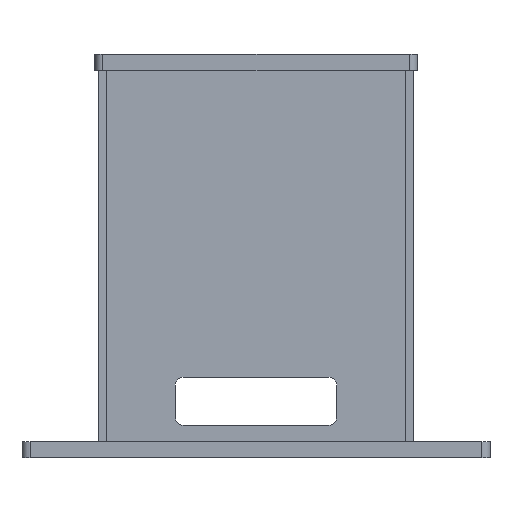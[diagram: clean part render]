
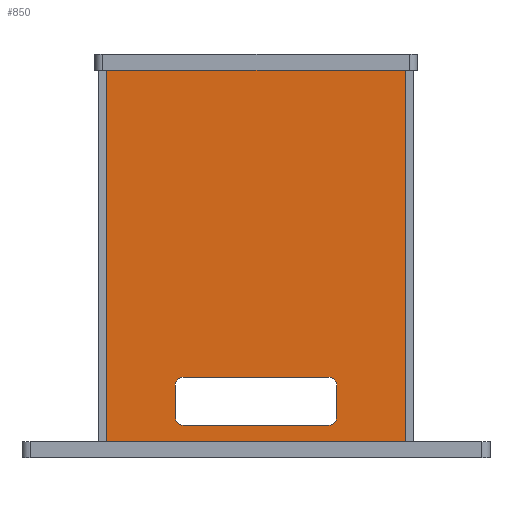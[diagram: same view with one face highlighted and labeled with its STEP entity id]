
A CAD part, left-side view. The second image highlights one B-rep face of the part: STEP entity #850.
In plain terms, the highlighted planar face has unit normal (-1, 0, 0).
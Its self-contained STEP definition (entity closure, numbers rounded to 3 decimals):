
#38 = CARTESIAN_POINT ( 'NONE',  ( -195., -185., 470. ) ) ;
#55 = VECTOR ( 'NONE', #1586, 1000. ) ;
#94 = CARTESIAN_POINT ( 'NONE',  ( -195., 100., 90. ) ) ;
#163 = CARTESIAN_POINT ( 'NONE',  ( -195., -100., 80. ) ) ;
#208 = CARTESIAN_POINT ( 'NONE',  ( -195., -90., 40. ) ) ;
#223 = ORIENTED_EDGE ( 'NONE', *, *, #2108, .T. ) ;
#224 = DIRECTION ( 'NONE',  ( 0., 0., -1. ) ) ;
#236 = DIRECTION ( 'NONE',  ( -1., 0., 0. ) ) ;
#264 = CARTESIAN_POINT ( 'NONE',  ( -195., -185., 470. ) ) ;
#287 = AXIS2_PLACEMENT_3D ( 'NONE', #2886, #3635, #2575 ) ;
#348 = EDGE_CURVE ( 'NONE', #1625, #2088, #689, .T. ) ;
#367 = VECTOR ( 'NONE', #1975, 1000. ) ;
#430 = ORIENTED_EDGE ( 'NONE', *, *, #1804, .T. ) ;
#436 = VERTEX_POINT ( 'NONE', #3579 ) ;
#463 = EDGE_CURVE ( 'NONE', #3530, #1995, #585, .T. ) ;
#486 = LINE ( 'NONE', #3944, #1504 ) ;
#575 = EDGE_CURVE ( 'NONE', #2303, #1187, #2597, .T. ) ;
#585 = CIRCLE ( 'NONE', #3304, 10. ) ;
#590 = LINE ( 'NONE', #727, #2254 ) ;
#689 = LINE ( 'NONE', #2641, #55 ) ;
#727 = CARTESIAN_POINT ( 'NONE',  ( -195., 185., 470. ) ) ;
#756 = CARTESIAN_POINT ( 'NONE',  ( -195., 100., 30. ) ) ;
#775 = DIRECTION ( 'NONE',  ( 0., 1., 0. ) ) ;
#836 = CIRCLE ( 'NONE', #3666, 10. ) ;
#850 = ADVANCED_FACE ( 'NONE', ( #1866, #3273 ), #1730, .T. ) ;
#909 = DIRECTION ( 'NONE',  ( 0., 1., 0. ) ) ;
#924 = VERTEX_POINT ( 'NONE', #2018 ) ;
#936 = DIRECTION ( 'NONE',  ( 1., 0., 0. ) ) ;
#938 = CARTESIAN_POINT ( 'NONE',  ( -195., -90., 90. ) ) ;
#939 = VECTOR ( 'NONE', #2947, 1000. ) ;
#966 = CARTESIAN_POINT ( 'NONE',  ( -195., -90., 30. ) ) ;
#1100 = LINE ( 'NONE', #2134, #2648 ) ;
#1153 = CARTESIAN_POINT ( 'NONE',  ( -195., -90., 80. ) ) ;
#1187 = VERTEX_POINT ( 'NONE', #1703 ) ;
#1207 = ORIENTED_EDGE ( 'NONE', *, *, #1421, .T. ) ;
#1212 = EDGE_CURVE ( 'NONE', #1187, #1625, #590, .T. ) ;
#1236 = DIRECTION ( 'NONE',  ( 1., 0., 0. ) ) ;
#1253 = EDGE_LOOP ( 'NONE', ( #430, #3614, #2906, #2557, #3608, #1887, #223, #1207 ) ) ;
#1377 = DIRECTION ( 'NONE',  ( 0., 1., 0. ) ) ;
#1397 = ORIENTED_EDGE ( 'NONE', *, *, #1212, .F. ) ;
#1421 = EDGE_CURVE ( 'NONE', #3908, #2068, #836, .T. ) ;
#1504 = VECTOR ( 'NONE', #224, 1000. ) ;
#1586 = DIRECTION ( 'NONE',  ( 0., -1., 0. ) ) ;
#1625 = VERTEX_POINT ( 'NONE', #1687 ) ;
#1687 = CARTESIAN_POINT ( 'NONE',  ( -195., 185., 470. ) ) ;
#1703 = CARTESIAN_POINT ( 'NONE',  ( -195., 185., 10. ) ) ;
#1707 = CARTESIAN_POINT ( 'NONE',  ( -195., 185., 10. ) ) ;
#1730 = PLANE ( 'NONE',  #3200 ) ;
#1736 = LINE ( 'NONE', #38, #3990 ) ;
#1804 = EDGE_CURVE ( 'NONE', #2068, #436, #3954, .T. ) ;
#1824 = ORIENTED_EDGE ( 'NONE', *, *, #575, .F. ) ;
#1866 = FACE_BOUND ( 'NONE', #1253, .T. ) ;
#1887 = ORIENTED_EDGE ( 'NONE', *, *, #463, .T. ) ;
#1933 = EDGE_LOOP ( 'NONE', ( #1397, #1824, #3332, #3186 ) ) ;
#1975 = DIRECTION ( 'NONE',  ( 0., -1., 0. ) ) ;
#1988 = DIRECTION ( 'NONE',  ( 0., 1., 0. ) ) ;
#1995 = VERTEX_POINT ( 'NONE', #163 ) ;
#2000 = CARTESIAN_POINT ( 'NONE',  ( -195., 100., 40. ) ) ;
#2018 = CARTESIAN_POINT ( 'NONE',  ( -195., 100., 80. ) ) ;
#2033 = DIRECTION ( 'NONE',  ( 0., 0., -1. ) ) ;
#2042 = VECTOR ( 'NONE', #775, 1000. ) ;
#2068 = VERTEX_POINT ( 'NONE', #966 ) ;
#2088 = VERTEX_POINT ( 'NONE', #264 ) ;
#2108 = EDGE_CURVE ( 'NONE', #1995, #3908, #486, .T. ) ;
#2118 = CIRCLE ( 'NONE', #287, 10. ) ;
#2134 = CARTESIAN_POINT ( 'NONE',  ( -195., 100., 30. ) ) ;
#2198 = CARTESIAN_POINT ( 'NONE',  ( -195., -185., 10. ) ) ;
#2254 = VECTOR ( 'NONE', #3892, 1000. ) ;
#2303 = VERTEX_POINT ( 'NONE', #2198 ) ;
#2340 = DIRECTION ( 'NONE',  ( 0., 0., 1. ) ) ;
#2486 = CIRCLE ( 'NONE', #2978, 10. ) ;
#2526 = DIRECTION ( 'NONE',  ( 1., 0., 0. ) ) ;
#2557 = ORIENTED_EDGE ( 'NONE', *, *, #3776, .T. ) ;
#2575 = DIRECTION ( 'NONE',  ( 0., 1., 0. ) ) ;
#2597 = LINE ( 'NONE', #1707, #939 ) ;
#2641 = CARTESIAN_POINT ( 'NONE',  ( -195., 185., 470. ) ) ;
#2648 = VECTOR ( 'NONE', #2340, 1000. ) ;
#2679 = DIRECTION ( 'NONE',  ( 0., 1., 0. ) ) ;
#2797 = EDGE_CURVE ( 'NONE', #2088, #2303, #1736, .T. ) ;
#2886 = CARTESIAN_POINT ( 'NONE',  ( -195., 90., 40. ) ) ;
#2906 = ORIENTED_EDGE ( 'NONE', *, *, #3237, .T. ) ;
#2947 = DIRECTION ( 'NONE',  ( 0., 1., 0. ) ) ;
#2978 = AXIS2_PLACEMENT_3D ( 'NONE', #3397, #1236, #2679 ) ;
#3186 = ORIENTED_EDGE ( 'NONE', *, *, #348, .F. ) ;
#3200 = AXIS2_PLACEMENT_3D ( 'NONE', #3584, #236, #909 ) ;
#3237 = EDGE_CURVE ( 'NONE', #3258, #924, #1100, .T. ) ;
#3254 = VERTEX_POINT ( 'NONE', #3631 ) ;
#3258 = VERTEX_POINT ( 'NONE', #2000 ) ;
#3273 = FACE_OUTER_BOUND ( 'NONE', #1933, .T. ) ;
#3304 = AXIS2_PLACEMENT_3D ( 'NONE', #1153, #936, #1377 ) ;
#3332 = ORIENTED_EDGE ( 'NONE', *, *, #2797, .F. ) ;
#3397 = CARTESIAN_POINT ( 'NONE',  ( -195., 90., 80. ) ) ;
#3487 = EDGE_CURVE ( 'NONE', #3254, #3530, #3637, .T. ) ;
#3530 = VERTEX_POINT ( 'NONE', #938 ) ;
#3579 = CARTESIAN_POINT ( 'NONE',  ( -195., 90., 30. ) ) ;
#3584 = CARTESIAN_POINT ( 'NONE',  ( -195., 185., 470. ) ) ;
#3608 = ORIENTED_EDGE ( 'NONE', *, *, #3487, .T. ) ;
#3614 = ORIENTED_EDGE ( 'NONE', *, *, #3636, .T. ) ;
#3631 = CARTESIAN_POINT ( 'NONE',  ( -195., 90., 90. ) ) ;
#3635 = DIRECTION ( 'NONE',  ( 1., 0., 0. ) ) ;
#3636 = EDGE_CURVE ( 'NONE', #436, #3258, #2118, .T. ) ;
#3637 = LINE ( 'NONE', #94, #367 ) ;
#3652 = CARTESIAN_POINT ( 'NONE',  ( -195., -100., 40. ) ) ;
#3666 = AXIS2_PLACEMENT_3D ( 'NONE', #208, #2526, #1988 ) ;
#3776 = EDGE_CURVE ( 'NONE', #924, #3254, #2486, .T. ) ;
#3892 = DIRECTION ( 'NONE',  ( 0., 0., 1. ) ) ;
#3908 = VERTEX_POINT ( 'NONE', #3652 ) ;
#3944 = CARTESIAN_POINT ( 'NONE',  ( -195., -100., 30. ) ) ;
#3954 = LINE ( 'NONE', #756, #2042 ) ;
#3990 = VECTOR ( 'NONE', #2033, 1000. ) ;
